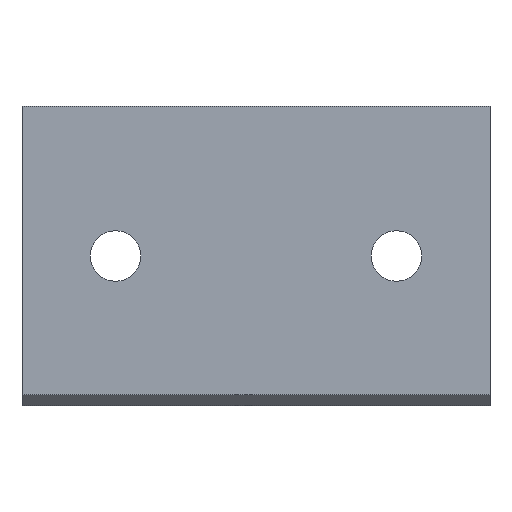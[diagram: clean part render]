
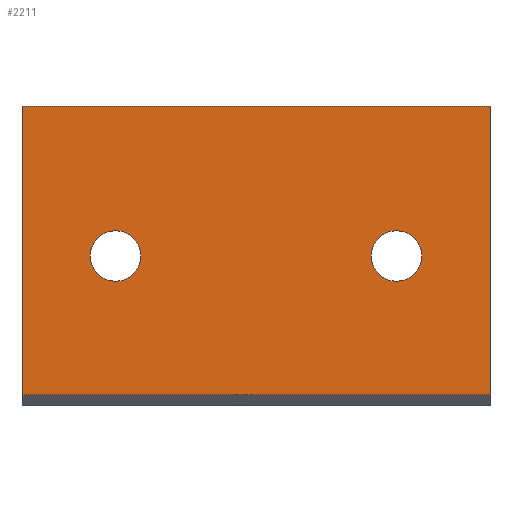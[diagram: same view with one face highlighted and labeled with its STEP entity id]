
A CAD part, left-side view. The second image highlights one B-rep face of the part: STEP entity #2211.
In plain terms, the highlighted planar face has unit normal (-1, 0, 0).
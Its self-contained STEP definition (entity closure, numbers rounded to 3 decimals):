
#6 = AXIS2_PLACEMENT_3D ( 'NONE', #1788, #491, #3422 ) ;
#138 = AXIS2_PLACEMENT_3D ( 'NONE', #2996, #3500, #558 ) ;
#153 = CARTESIAN_POINT ( 'NONE',  ( 0., 0., 0. ) ) ;
#201 = CARTESIAN_POINT ( 'NONE',  ( 0., 25., 40. ) ) ;
#214 = AXIS2_PLACEMENT_3D ( 'NONE', #201, #243, #279 ) ;
#243 = DIRECTION ( 'NONE',  ( 1., 0., 0. ) ) ;
#260 = VERTEX_POINT ( 'NONE', #2050 ) ;
#279 = DIRECTION ( 'NONE',  ( 0., 1., 0. ) ) ;
#282 = VERTEX_POINT ( 'NONE', #1844 ) ;
#288 = VERTEX_POINT ( 'NONE', #1809 ) ;
#291 = AXIS2_PLACEMENT_3D ( 'NONE', #2039, #2065, #2107 ) ;
#353 = ORIENTED_EDGE ( 'NONE', *, *, #1317, .T. ) ;
#491 = DIRECTION ( 'NONE',  ( 1., 0., 0. ) ) ;
#536 = EDGE_LOOP ( 'NONE', ( #3246, #353 ) ) ;
#558 = DIRECTION ( 'NONE',  ( 0., 1., 0. ) ) ;
#629 = FACE_BOUND ( 'NONE', #536, .T. ) ;
#651 = VECTOR ( 'NONE', #2699, 1000. ) ;
#755 = VERTEX_POINT ( 'NONE', #1487 ) ;
#808 = DIRECTION ( 'NONE',  ( 1., 0., 0. ) ) ;
#911 = VERTEX_POINT ( 'NONE', #3036 ) ;
#1055 = EDGE_CURVE ( 'NONE', #288, #2163, #3104, .T. ) ;
#1068 = ORIENTED_EDGE ( 'NONE', *, *, #1138, .F. ) ;
#1137 = CARTESIAN_POINT ( 'NONE',  ( 0., 125., 41.5 ) ) ;
#1138 = EDGE_CURVE ( 'NONE', #3378, #282, #2860, .T. ) ;
#1164 = EDGE_CURVE ( 'NONE', #282, #1580, #1415, .T. ) ;
#1177 = EDGE_CURVE ( 'NONE', #911, #755, #1963, .T. ) ;
#1206 = VECTOR ( 'NONE', #3459, 1000. ) ;
#1224 = EDGE_CURVE ( 'NONE', #755, #911, #3533, .T. ) ;
#1317 = EDGE_CURVE ( 'NONE', #2163, #288, #1548, .T. ) ;
#1354 = EDGE_CURVE ( 'NONE', #1580, #260, #1484, .T. ) ;
#1357 = DIRECTION ( 'NONE',  ( 0., -1., 0. ) ) ;
#1378 = CARTESIAN_POINT ( 'NONE',  ( 0., 125., 80. ) ) ;
#1415 = LINE ( 'NONE', #1137, #651 ) ;
#1428 = ORIENTED_EDGE ( 'NONE', *, *, #3407, .F. ) ;
#1484 = LINE ( 'NONE', #1807, #2033 ) ;
#1486 = VECTOR ( 'NONE', #3444, 1000. ) ;
#1487 = CARTESIAN_POINT ( 'NONE',  ( 0., 31.75, 40. ) ) ;
#1530 = ORIENTED_EDGE ( 'NONE', *, *, #1354, .F. ) ;
#1548 = CIRCLE ( 'NONE', #6, 6.75 ) ;
#1580 = VERTEX_POINT ( 'NONE', #1378 ) ;
#1636 = PLANE ( 'NONE',  #2222 ) ;
#1760 = ORIENTED_EDGE ( 'NONE', *, *, #1164, .F. ) ;
#1788 = CARTESIAN_POINT ( 'NONE',  ( 0., 100., 40. ) ) ;
#1807 = CARTESIAN_POINT ( 'NONE',  ( 0., 62.5, 80. ) ) ;
#1809 = CARTESIAN_POINT ( 'NONE',  ( 0., 106.75, 40. ) ) ;
#1844 = CARTESIAN_POINT ( 'NONE',  ( 0., 125., 3. ) ) ;
#1963 = CIRCLE ( 'NONE', #214, 6.75 ) ;
#2009 = ORIENTED_EDGE ( 'NONE', *, *, #1177, .T. ) ;
#2033 = VECTOR ( 'NONE', #1357, 1000. ) ;
#2039 = CARTESIAN_POINT ( 'NONE',  ( 0., 100., 40. ) ) ;
#2050 = CARTESIAN_POINT ( 'NONE',  ( 0., 0., 80. ) ) ;
#2065 = DIRECTION ( 'NONE',  ( 1., 0., 0. ) ) ;
#2070 = CARTESIAN_POINT ( 'NONE',  ( 0., 0., 3. ) ) ;
#2105 = FACE_BOUND ( 'NONE', #2234, .T. ) ;
#2107 = DIRECTION ( 'NONE',  ( 0., -1., 0. ) ) ;
#2163 = VERTEX_POINT ( 'NONE', #2594 ) ;
#2211 = ADVANCED_FACE ( 'NONE', ( #2745, #2105, #629 ), #1636, .F. ) ;
#2220 = ORIENTED_EDGE ( 'NONE', *, *, #1224, .T. ) ;
#2222 = AXIS2_PLACEMENT_3D ( 'NONE', #153, #808, #3370 ) ;
#2234 = EDGE_LOOP ( 'NONE', ( #2009, #2220 ) ) ;
#2594 = CARTESIAN_POINT ( 'NONE',  ( 0., 93.25, 40. ) ) ;
#2699 = DIRECTION ( 'NONE',  ( 0., 0., 1. ) ) ;
#2745 = FACE_OUTER_BOUND ( 'NONE', #3266, .T. ) ;
#2860 = LINE ( 'NONE', #3457, #1486 ) ;
#2996 = CARTESIAN_POINT ( 'NONE',  ( 0., 25., 40. ) ) ;
#3036 = CARTESIAN_POINT ( 'NONE',  ( 0., 18.25, 40. ) ) ;
#3104 = CIRCLE ( 'NONE', #291, 6.75 ) ;
#3193 = CARTESIAN_POINT ( 'NONE',  ( 0., 0., 41.5 ) ) ;
#3213 = LINE ( 'NONE', #3193, #1206 ) ;
#3246 = ORIENTED_EDGE ( 'NONE', *, *, #1055, .T. ) ;
#3266 = EDGE_LOOP ( 'NONE', ( #1068, #1428, #1530, #1760 ) ) ;
#3370 = DIRECTION ( 'NONE',  ( 0., 1., 0. ) ) ;
#3378 = VERTEX_POINT ( 'NONE', #2070 ) ;
#3407 = EDGE_CURVE ( 'NONE', #260, #3378, #3213, .T. ) ;
#3422 = DIRECTION ( 'NONE',  ( 0., -1., 0. ) ) ;
#3444 = DIRECTION ( 'NONE',  ( 0., 1., 0. ) ) ;
#3457 = CARTESIAN_POINT ( 'NONE',  ( 0., 62.5, 3. ) ) ;
#3459 = DIRECTION ( 'NONE',  ( 0., 0., -1. ) ) ;
#3500 = DIRECTION ( 'NONE',  ( 1., 0., 0. ) ) ;
#3533 = CIRCLE ( 'NONE', #138, 6.75 ) ;
